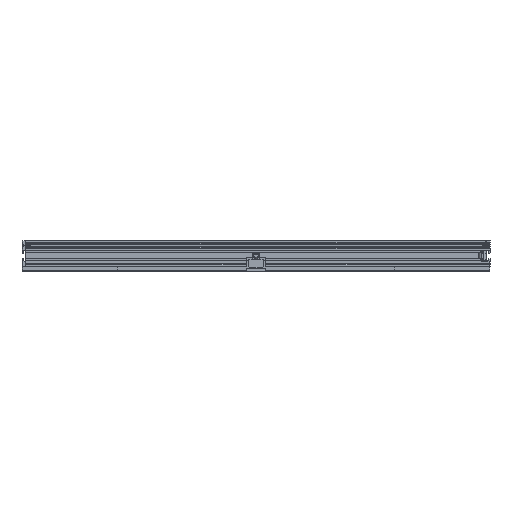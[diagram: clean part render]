
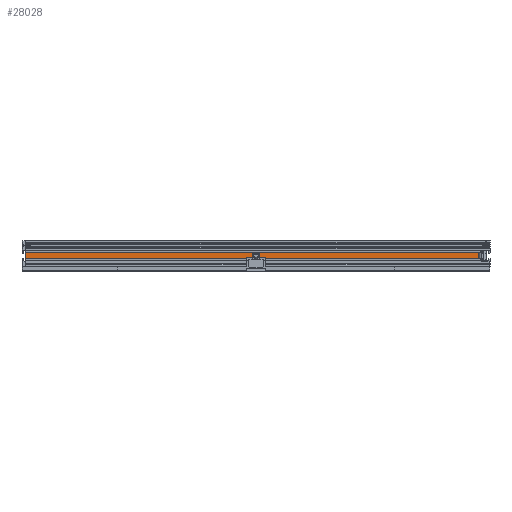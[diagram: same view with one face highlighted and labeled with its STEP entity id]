
A CAD part, top view. The second image highlights one B-rep face of the part: STEP entity #28028.
In plain terms, the highlighted planar face has unit normal (0, 0, 1).
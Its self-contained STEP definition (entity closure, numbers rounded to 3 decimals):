
#968 = PLANE ( 'NONE',  #35837 ) ;
#1342 = FACE_OUTER_BOUND ( 'NONE', #28057, .T. ) ;
#2219 = CARTESIAN_POINT ( 'NONE',  ( -126.5, 9.65, 92. ) ) ;
#2841 = VECTOR ( 'NONE', #6802, 1000. ) ;
#2952 = EDGE_CURVE ( 'NONE', #7504, #19921, #13657, .T. ) ;
#3210 = CARTESIAN_POINT ( 'NONE',  ( -126.5, 6.35, 92. ) ) ;
#6632 = VECTOR ( 'NONE', #20515, 1000. ) ;
#6802 = DIRECTION ( 'NONE',  ( 1., 0., 0. ) ) ;
#7504 = VERTEX_POINT ( 'NONE', #32723 ) ;
#7685 = ORIENTED_EDGE ( 'NONE', *, *, #15099, .T. ) ;
#8834 = VERTEX_POINT ( 'NONE', #11547 ) ;
#11547 = CARTESIAN_POINT ( 'NONE',  ( -124.5, 6.35, 92. ) ) ;
#13210 = LINE ( 'NONE', #3210, #2841 ) ;
#13231 = ORIENTED_EDGE ( 'NONE', *, *, #21238, .T. ) ;
#13657 = LINE ( 'NONE', #2219, #6632 ) ;
#14507 = VECTOR ( 'NONE', #25363, 1000. ) ;
#15099 = EDGE_CURVE ( 'NONE', #15991, #19921, #36180, .T. ) ;
#15991 = VERTEX_POINT ( 'NONE', #26746 ) ;
#16119 = CARTESIAN_POINT ( 'NONE',  ( 120.5, 9.65, 92. ) ) ;
#19921 = VERTEX_POINT ( 'NONE', #16119 ) ;
#20515 = DIRECTION ( 'NONE',  ( 1., 0., 0. ) ) ;
#21238 = EDGE_CURVE ( 'NONE', #8834, #15991, #13210, .T. ) ;
#21755 = ORIENTED_EDGE ( 'NONE', *, *, #21870, .F. ) ;
#21870 = EDGE_CURVE ( 'NONE', #8834, #7504, #34256, .T. ) ;
#25363 = DIRECTION ( 'NONE',  ( 0., 1., 0. ) ) ;
#25435 = DIRECTION ( 'NONE',  ( 0., 0., -1. ) ) ;
#25551 = DIRECTION ( 'NONE',  ( 0., 1., 0. ) ) ;
#26746 = CARTESIAN_POINT ( 'NONE',  ( 120.5, 6.35, 92. ) ) ;
#27808 = DIRECTION ( 'NONE',  ( -1., 0., 0. ) ) ;
#28028 = ADVANCED_FACE ( 'NONE', ( #1342 ), #968, .F. ) ;
#28057 = EDGE_LOOP ( 'NONE', ( #13231, #7685, #35419, #21755 ) ) ;
#30814 = CARTESIAN_POINT ( 'NONE',  ( -124.5, 2., 92. ) ) ;
#31273 = CARTESIAN_POINT ( 'NONE',  ( 120.5, 6.35, 92. ) ) ;
#32723 = CARTESIAN_POINT ( 'NONE',  ( -124.5, 9.65, 92. ) ) ;
#33986 = CARTESIAN_POINT ( 'NONE',  ( -126.5, 6.35, 92. ) ) ;
#34256 = LINE ( 'NONE', #30814, #37120 ) ;
#35419 = ORIENTED_EDGE ( 'NONE', *, *, #2952, .F. ) ;
#35837 = AXIS2_PLACEMENT_3D ( 'NONE', #33986, #25435, #27808 ) ;
#36180 = LINE ( 'NONE', #31273, #14507 ) ;
#37120 = VECTOR ( 'NONE', #25551, 1000. ) ;
